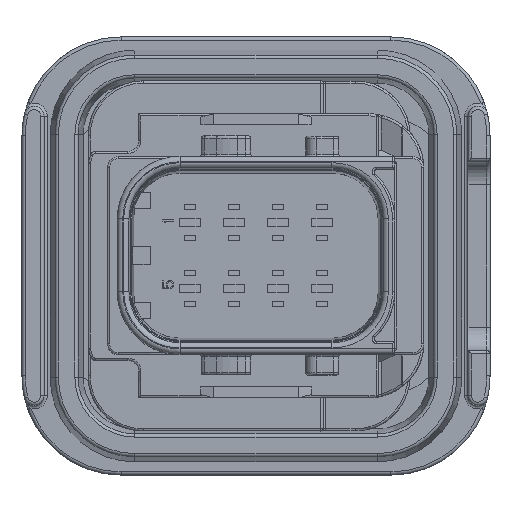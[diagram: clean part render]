
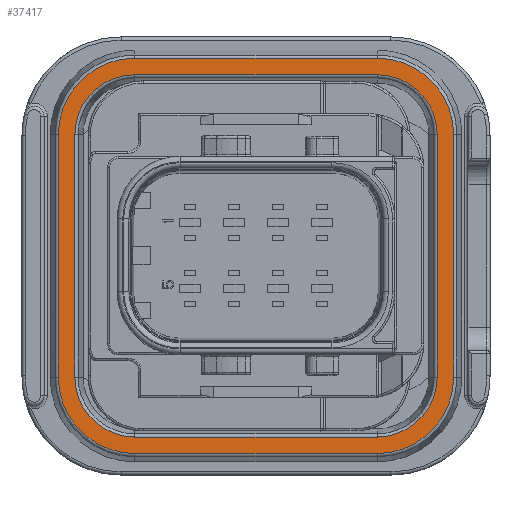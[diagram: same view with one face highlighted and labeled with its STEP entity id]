
A CAD part, top view. The second image highlights one B-rep face of the part: STEP entity #37417.
In plain terms, the highlighted planar face has unit normal (0, 0, 1).
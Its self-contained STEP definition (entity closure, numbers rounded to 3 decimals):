
#12226=CARTESIAN_POINT('',(11.,11.,-29.6));
#12227=DIRECTION('',(0.,0.,-1.));
#12228=DIRECTION('',(0.,1.,0.));
#12229=AXIS2_PLACEMENT_3D('',#12226,#12227,#12228);
#12231=DIRECTION('',(1.,0.,0.));
#12232=VECTOR('',#12231,22.);
#12233=CARTESIAN_POINT('',(-11.,16.45,-29.6));
#12234=LINE('',#12233,#12232);
#12240=CARTESIAN_POINT('',(-11.,11.,-29.6));
#12241=DIRECTION('',(0.,0.,-1.));
#12242=DIRECTION('',(-1.,0.,0.));
#12243=AXIS2_PLACEMENT_3D('',#12240,#12241,#12242);
#12255=DIRECTION('',(0.,1.,0.));
#12256=VECTOR('',#12255,22.);
#12257=CARTESIAN_POINT('',(-16.45,-11.,-29.6));
#12258=LINE('',#12257,#12256);
#12264=CARTESIAN_POINT('',(-11.,-11.,-29.6));
#12265=DIRECTION('',(0.,0.,-1.));
#12266=DIRECTION('',(0.,-1.,0.));
#12267=AXIS2_PLACEMENT_3D('',#12264,#12265,#12266);
#12274=DIRECTION('',(-1.,0.,0.));
#12275=VECTOR('',#12274,22.);
#12276=CARTESIAN_POINT('',(11.,-16.45,-29.6));
#12277=LINE('',#12276,#12275);
#12283=CARTESIAN_POINT('',(11.,-11.,-29.6));
#12284=DIRECTION('',(0.,0.,-1.));
#12285=DIRECTION('',(1.,0.,0.));
#12286=AXIS2_PLACEMENT_3D('',#12283,#12284,#12285);
#12293=DIRECTION('',(0.,-1.,0.));
#12294=VECTOR('',#12293,22.);
#12295=CARTESIAN_POINT('',(16.45,11.,-29.6));
#12296=LINE('',#12295,#12294);
#12297=DIRECTION('',(1.,0.,0.));
#12298=VECTOR('',#12297,22.);
#12299=CARTESIAN_POINT('',(-11.,17.95,-29.6));
#12300=LINE('',#12299,#12298);
#12301=CARTESIAN_POINT('',(11.,11.,-29.6));
#12302=DIRECTION('',(0.,0.,-1.));
#12303=DIRECTION('',(0.,1.,0.));
#12304=AXIS2_PLACEMENT_3D('',#12301,#12302,#12303);
#12306=DIRECTION('',(0.,-1.,0.));
#12307=VECTOR('',#12306,22.);
#12308=CARTESIAN_POINT('',(17.95,11.,-29.6));
#12309=LINE('',#12308,#12307);
#12310=CARTESIAN_POINT('',(11.,-11.,-29.6));
#12311=DIRECTION('',(0.,0.,-1.));
#12312=DIRECTION('',(1.,0.,0.));
#12313=AXIS2_PLACEMENT_3D('',#12310,#12311,#12312);
#12315=DIRECTION('',(-1.,0.,0.));
#12316=VECTOR('',#12315,22.);
#12317=CARTESIAN_POINT('',(11.,-17.95,-29.6));
#12318=LINE('',#12317,#12316);
#12319=CARTESIAN_POINT('',(-11.,-11.,-29.6));
#12320=DIRECTION('',(0.,0.,-1.));
#12321=DIRECTION('',(0.,-1.,0.));
#12322=AXIS2_PLACEMENT_3D('',#12319,#12320,#12321);
#12324=DIRECTION('',(0.,1.,0.));
#12325=VECTOR('',#12324,22.);
#12326=CARTESIAN_POINT('',(-17.95,-11.,-29.6));
#12327=LINE('',#12326,#12325);
#12328=CARTESIAN_POINT('',(-11.,11.,-29.6));
#12329=DIRECTION('',(0.,0.,-1.));
#12330=DIRECTION('',(-1.,0.,0.));
#12331=AXIS2_PLACEMENT_3D('',#12328,#12329,#12330);
#21660=CARTESIAN_POINT('',(-11.,17.95,-29.6));
#21661=VERTEX_POINT('',#21660);
#21662=CARTESIAN_POINT('',(-11.,16.45,-29.6));
#21664=VERTEX_POINT('',#21662);
#21674=CARTESIAN_POINT('',(11.,17.95,-29.6));
#21675=VERTEX_POINT('',#21674);
#21676=CARTESIAN_POINT('',(11.,16.45,-29.6));
#21678=VERTEX_POINT('',#21676);
#21692=CARTESIAN_POINT('',(17.95,11.,-29.6));
#21693=VERTEX_POINT('',#21692);
#21694=CARTESIAN_POINT('',(16.45,11.,-29.6));
#21696=VERTEX_POINT('',#21694);
#21708=CARTESIAN_POINT('',(17.95,-11.,-29.6));
#21709=VERTEX_POINT('',#21708);
#21710=CARTESIAN_POINT('',(16.45,-11.,-29.6));
#21712=VERTEX_POINT('',#21710);
#21724=CARTESIAN_POINT('',(11.,-17.95,-29.6));
#21725=VERTEX_POINT('',#21724);
#21726=CARTESIAN_POINT('',(11.,-16.45,-29.6));
#21728=VERTEX_POINT('',#21726);
#21740=CARTESIAN_POINT('',(-11.,-17.95,-29.6));
#21741=VERTEX_POINT('',#21740);
#21742=CARTESIAN_POINT('',(-11.,-16.45,-29.6));
#21744=VERTEX_POINT('',#21742);
#21756=CARTESIAN_POINT('',(-17.95,-11.,-29.6));
#21757=VERTEX_POINT('',#21756);
#21758=CARTESIAN_POINT('',(-16.45,-11.,-29.6));
#21760=VERTEX_POINT('',#21758);
#21772=CARTESIAN_POINT('',(-17.95,11.,-29.6));
#21773=VERTEX_POINT('',#21772);
#21774=CARTESIAN_POINT('',(-16.45,11.,-29.6));
#21776=VERTEX_POINT('',#21774);
#37384=CARTESIAN_POINT('',(-11.,17.95,-29.6));
#37385=DIRECTION('',(0.,0.,1.));
#37386=DIRECTION('',(0.,-1.,0.));
#37387=AXIS2_PLACEMENT_3D('',#37384,#37385,#37386);
#37388=PLANE('',#37387);
#37390=ORIENTED_EDGE('',*,*,#37389,.T.);
#37392=ORIENTED_EDGE('',*,*,#37391,.T.);
#37394=ORIENTED_EDGE('',*,*,#37393,.T.);
#37396=ORIENTED_EDGE('',*,*,#37395,.T.);
#37398=ORIENTED_EDGE('',*,*,#37397,.T.);
#37400=ORIENTED_EDGE('',*,*,#37399,.T.);
#37402=ORIENTED_EDGE('',*,*,#37401,.T.);
#37404=ORIENTED_EDGE('',*,*,#37403,.T.);
#37405=EDGE_LOOP('',(#37390,#37392,#37394,#37396,#37398,#37400,#37402,#37404));
#37406=FACE_OUTER_BOUND('',#37405,.F.);
#37407=ORIENTED_EDGE('',*,*,#37302,.F.);
#37408=ORIENTED_EDGE('',*,*,#37317,.F.);
#37409=ORIENTED_EDGE('',*,*,#37332,.F.);
#37410=ORIENTED_EDGE('',*,*,#37347,.F.);
#37411=ORIENTED_EDGE('',*,*,#37362,.F.);
#37412=ORIENTED_EDGE('',*,*,#37376,.F.);
#37413=ORIENTED_EDGE('',*,*,#37273,.F.);
#37414=ORIENTED_EDGE('',*,*,#37288,.F.);
#37415=EDGE_LOOP('',(#37407,#37408,#37409,#37410,#37411,#37412,#37413,#37414));
#37416=FACE_BOUND('',#37415,.F.);
#37417=ADVANCED_FACE('',(#37406,#37416),#37388,.T.);
#12230=CIRCLE('',#12229,5.45);
#12244=CIRCLE('',#12243,5.45);
#12268=CIRCLE('',#12267,5.45);
#12287=CIRCLE('',#12286,5.45);
#12305=CIRCLE('',#12304,6.95);
#12314=CIRCLE('',#12313,6.95);
#12323=CIRCLE('',#12322,6.95);
#12332=CIRCLE('',#12331,6.95);
#37273=EDGE_CURVE('',#21678,#21696,#12230,.T.);
#37288=EDGE_CURVE('',#21664,#21678,#12234,.T.);
#37302=EDGE_CURVE('',#21776,#21664,#12244,.T.);
#37317=EDGE_CURVE('',#21760,#21776,#12258,.T.);
#37332=EDGE_CURVE('',#21744,#21760,#12268,.T.);
#37347=EDGE_CURVE('',#21728,#21744,#12277,.T.);
#37362=EDGE_CURVE('',#21712,#21728,#12287,.T.);
#37376=EDGE_CURVE('',#21696,#21712,#12296,.T.);
#37389=EDGE_CURVE('',#21661,#21675,#12300,.T.);
#37391=EDGE_CURVE('',#21675,#21693,#12305,.T.);
#37393=EDGE_CURVE('',#21693,#21709,#12309,.T.);
#37395=EDGE_CURVE('',#21709,#21725,#12314,.T.);
#37397=EDGE_CURVE('',#21725,#21741,#12318,.T.);
#37399=EDGE_CURVE('',#21741,#21757,#12323,.T.);
#37401=EDGE_CURVE('',#21757,#21773,#12327,.T.);
#37403=EDGE_CURVE('',#21773,#21661,#12332,.T.);
